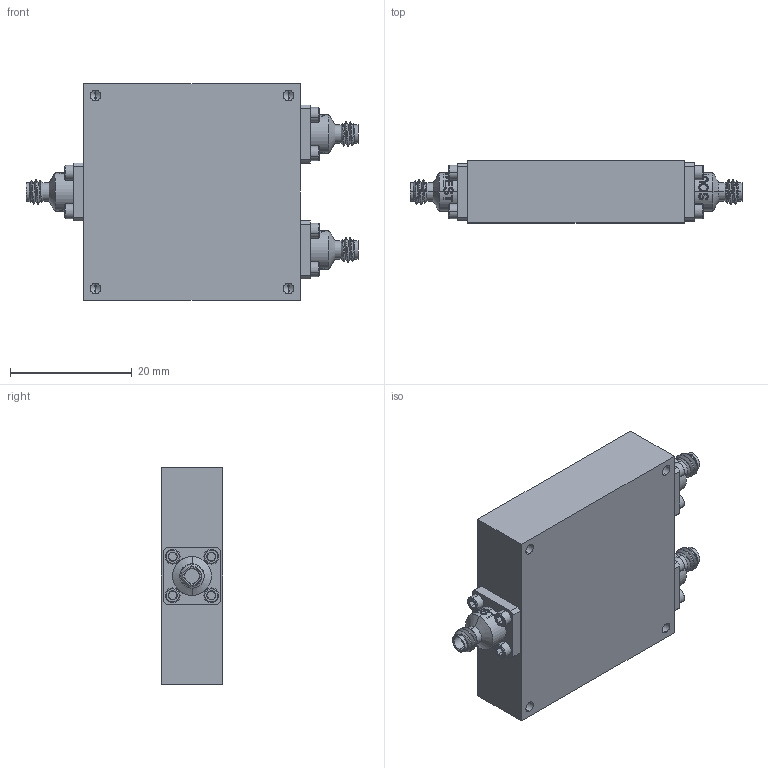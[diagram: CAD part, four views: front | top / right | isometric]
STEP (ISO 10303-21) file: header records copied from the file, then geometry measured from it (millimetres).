
FILE_DESCRIPTION (( 'STEP AP214' ), '1' );
FILE_NAME ('HL9408-JJJ.STEP', '2023-02-25T18:19:20', ( '' ), ( '' ), 'SwSTEP 2.0', 'SolidWorks 2023', '' );
FILE_SCHEMA (( 'AUTOMOTIVE_DESIGN' ));
Length unit declared in the file: millimetre
Products named in the file (6): 0-80x1-8_Socket Head Cap Screw_92196A052_18-8 Stainless Steel Socket Head Screw_92196A052; 100232-1; 100233-0; HL9408-JJJ; 0-80x3-16_flathead_phillips; 1.00mm J 4H .375SQ
Assembly tree (21 placements, depth 2):
  HL9408-JJJ
    100232-1
    100233-0
    0-80x3-16_flathead_phillips  x4
    1.00mm J 4H .375SQ  x3
    0-80x1-8_Socket Head Cap Screw_92196A052_18-8 Stainless Steel Socket Head Screw_92196A052  x12
Bounding box: 54.61 x 10.16 x 35.56 mm (x, y, z)
Volume: 9489.5 mm3; surface area: 9192.2 mm2
Topology: 21 solids, 21 shells, 1284 faces, 3217 edges, 2020 vertices
Faces by surface type: cylinder 482, plane 386, cone 284, bspline 108, torus 24
Entity records: 16052 total; most frequent: CARTESIAN_POINT 6673, ORIENTED_EDGE 1852, DIRECTION 1614, EDGE_CURVE 926, AXIS2_PLACEMENT_3D 628, VERTEX_POINT 597, EDGE_LOOP 423, FACE_OUTER_BOUND 364
